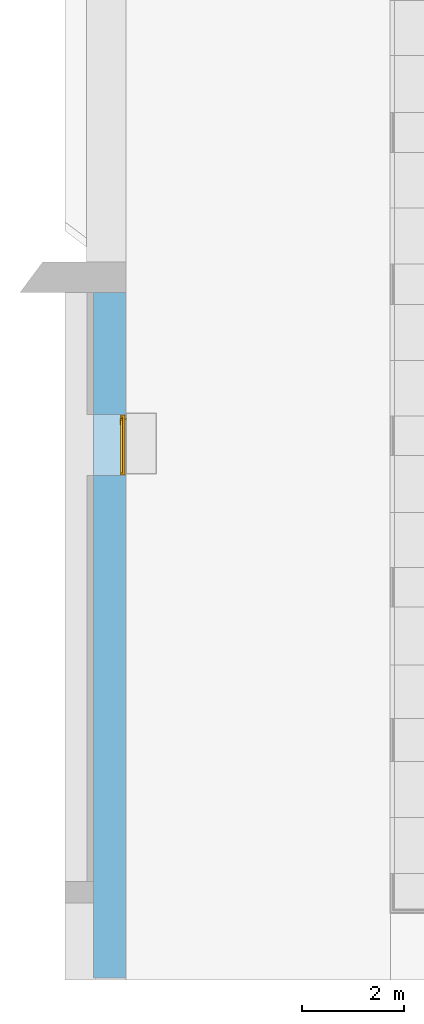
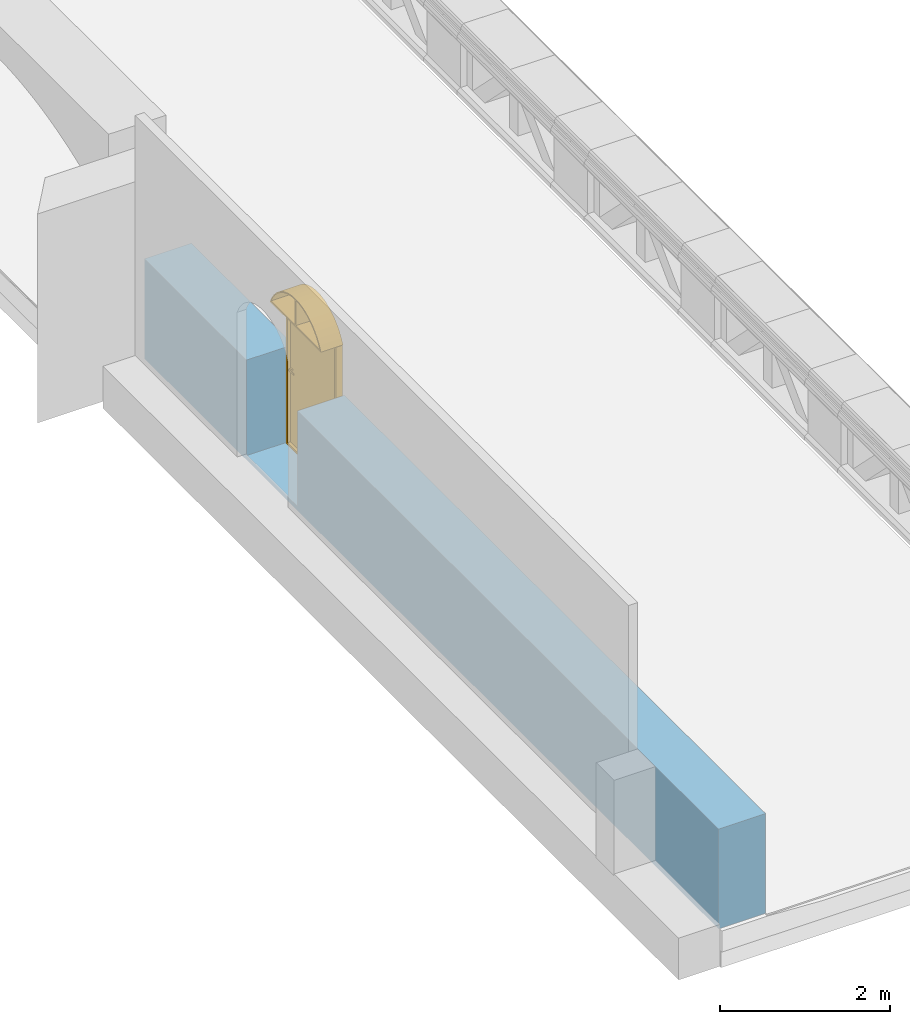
# One storey, part 4 of 9: 1 door, 7 openings, plus 1 element that does not belong to this part.
"""IFC2X3 building model written with IfcOpenShell, lengths in millimetres."""

from ifc_helpers import new_model, entity, si_unit, converted_unit, derived_unit, direction, frame, frame_2d, origin, place, context, subcontext, project, spatial, polyline, circle_curve, parameter, trimmed, segment, composite_curve, rectangle, outline, extrude, faceted_brep, source, transform, mapped, material, material_list, layer, layer_set, layer_usage, type_object, type_shapes, element, fill, save


model = new_model("IFC2X3")

# Units and contexts
model_context = context("Model", 3, precision=0.01, world=origin(), true_north=direction((6.123031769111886e-17, 1.0)))
body_context = subcontext(model_context, "Body", "Model", "MODEL_VIEW")
ifc_project = project(units=[si_unit("LENGTHUNIT", "METRE", prefix="MILLI"), si_unit("AREAUNIT", "SQUARE_METRE"), si_unit("VOLUMEUNIT", "CUBIC_METRE"), converted_unit("PLANEANGLEUNIT", "DEGREE", entity("IfcPlaneAngleMeasure", 0.017453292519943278), si_unit("PLANEANGLEUNIT", "RADIAN"), dimensions=[0, 0, 0, 0, 0, 0, 0]), si_unit("MASSUNIT", "GRAM", prefix="KILO"), derived_unit("MASSDENSITYUNIT", [(si_unit("MASSUNIT", "GRAM", prefix="KILO"), 1), (si_unit("LENGTHUNIT", "METRE"), -3)]), derived_unit("IONCONCENTRATIONUNIT", [(si_unit("MASSUNIT", "GRAM", prefix="KILO"), 1), (si_unit("LENGTHUNIT", "METRE"), -3)]), derived_unit("MOMENTOFINERTIAUNIT", [(si_unit("LENGTHUNIT", "METRE"), 4)]), si_unit("TIMEUNIT", "SECOND"), si_unit("FREQUENCYUNIT", "HERTZ"), si_unit("THERMODYNAMICTEMPERATUREUNIT", "DEGREE_CELSIUS"), derived_unit("THERMALTRANSMITTANCEUNIT", [(si_unit("MASSUNIT", "GRAM", prefix="KILO"), 1), (si_unit("THERMODYNAMICTEMPERATUREUNIT", "KELVIN"), -1), (si_unit("TIMEUNIT", "SECOND"), -3)]), derived_unit("THERMALCONDUCTANCEUNIT", [(si_unit("MASSUNIT", "GRAM", prefix="KILO"), 1), (si_unit("THERMODYNAMICTEMPERATUREUNIT", "KELVIN"), -1), (si_unit("TIMEUNIT", "SECOND"), -3), (si_unit("LENGTHUNIT", "METRE"), 1)]), derived_unit("VOLUMETRICFLOWRATEUNIT", [(si_unit("LENGTHUNIT", "METRE", prefix="DECI"), 3), (si_unit("TIMEUNIT", "SECOND"), -1)]), derived_unit("MASSFLOWRATEUNIT", [(si_unit("MASSUNIT", "GRAM", prefix="KILO"), 1), (si_unit("TIMEUNIT", "SECOND"), -1)]), derived_unit("ROTATIONALFREQUENCYUNIT", [(si_unit("TIMEUNIT", "SECOND"), -1)]), si_unit("ELECTRICCURRENTUNIT", "AMPERE"), si_unit("ELECTRICVOLTAGEUNIT", "VOLT"), si_unit("POWERUNIT", "WATT"), si_unit("FORCEUNIT", "NEWTON", prefix="KILO"), si_unit("ILLUMINANCEUNIT", "LUX"), si_unit("LUMINOUSFLUXUNIT", "LUMEN"), si_unit("LUMINOUSINTENSITYUNIT", "CANDELA"), si_unit("ENERGYUNIT", "JOULE"), derived_unit("USERDEFINED", [(si_unit("MASSUNIT", "GRAM", prefix="KILO"), -1), (si_unit("LENGTHUNIT", "METRE"), -2), (si_unit("TIMEUNIT", "SECOND"), 3), (si_unit("LUMINOUSFLUXUNIT", "LUMEN"), 1)]), derived_unit("USERDEFINED", [(si_unit("MASSUNIT", "GRAM", prefix="KILO"), 1), (si_unit("TIMEUNIT", "SECOND"), -3), (si_unit("LENGTHUNIT", "METRE"), 3), (si_unit("ELECTRICCURRENTUNIT", "AMPERE"), -2)]), derived_unit("SOUNDPOWERUNIT", [(si_unit("MASSUNIT", "GRAM", prefix="KILO"), 1), (si_unit("TIMEUNIT", "SECOND"), -3), (si_unit("LENGTHUNIT", "METRE"), 2)]), derived_unit("SOUNDPRESSUREUNIT", [(si_unit("MASSUNIT", "GRAM", prefix="KILO"), 1), (si_unit("LENGTHUNIT", "METRE"), -1), (si_unit("TIMEUNIT", "SECOND"), -2)]), derived_unit("LINEARVELOCITYUNIT", [(si_unit("LENGTHUNIT", "METRE"), 1), (si_unit("TIMEUNIT", "SECOND"), -1)]), si_unit("PRESSUREUNIT", "PASCAL"), derived_unit("USERDEFINED", [(si_unit("MASSUNIT", "GRAM", prefix="KILO"), 1), (si_unit("LENGTHUNIT", "METRE"), -2), (si_unit("TIMEUNIT", "SECOND"), -2)]), derived_unit("LINEARFORCEUNIT", [(si_unit("MASSUNIT", "GRAM", prefix="KILO"), 1), (si_unit("TIMEUNIT", "SECOND"), -2)]), derived_unit("PLANARFORCEUNIT", [(si_unit("MASSUNIT", "GRAM", prefix="KILO"), 1), (si_unit("LENGTHUNIT", "METRE"), -1), (si_unit("TIMEUNIT", "SECOND"), -2)]), derived_unit("SPECIFICHEATCAPACITYUNIT", [(si_unit("THERMODYNAMICTEMPERATUREUNIT", "KELVIN"), -1), (si_unit("LENGTHUNIT", "METRE"), 2), (si_unit("TIMEUNIT", "SECOND"), -2)]), derived_unit("HEATFLUXDENSITYUNIT", [(si_unit("MASSUNIT", "GRAM", prefix="KILO"), 1), (si_unit("TIMEUNIT", "SECOND"), -3)]), derived_unit("HEATINGVALUEUNIT", [(si_unit("LENGTHUNIT", "METRE"), 2), (si_unit("TIMEUNIT", "SECOND"), -2)]), derived_unit("VAPORPERMEABILITYUNIT", [(si_unit("LENGTHUNIT", "METRE"), -1), (si_unit("TIMEUNIT", "SECOND"), 1)]), derived_unit("DYNAMICVISCOSITYUNIT", [(si_unit("MASSUNIT", "GRAM", prefix="KILO"), 1), (si_unit("TIMEUNIT", "SECOND"), -1), (si_unit("LENGTHUNIT", "METRE"), -1)]), derived_unit("THERMALEXPANSIONCOEFFICIENTUNIT", [(si_unit("THERMODYNAMICTEMPERATUREUNIT", "KELVIN"), -1)]), derived_unit("MODULUSOFELASTICITYUNIT", [(si_unit("MASSUNIT", "GRAM", prefix="KILO"), 1), (si_unit("LENGTHUNIT", "METRE"), -1), (si_unit("TIMEUNIT", "SECOND"), -2)]), derived_unit("ISOTHERMALMOISTURECAPACITYUNIT", [(si_unit("MASSUNIT", "GRAM", prefix="KILO"), -1), (si_unit("LENGTHUNIT", "METRE"), 3)]), derived_unit("MOISTUREDIFFUSIVITYUNIT", [(si_unit("TIMEUNIT", "SECOND"), -1), (si_unit("LENGTHUNIT", "METRE"), 2)]), derived_unit("MASSPERLENGTHUNIT", [(si_unit("MASSUNIT", "GRAM", prefix="KILO"), 1), (si_unit("LENGTHUNIT", "METRE"), -1)]), derived_unit("THERMALRESISTANCEUNIT", [(si_unit("MASSUNIT", "GRAM", prefix="KILO"), -1), (si_unit("TIMEUNIT", "SECOND"), 3), (si_unit("THERMODYNAMICTEMPERATUREUNIT", "KELVIN"), 1)]), derived_unit("ACCELERATIONUNIT", [(si_unit("LENGTHUNIT", "METRE"), 1), (si_unit("TIMEUNIT", "SECOND"), -2)]), derived_unit("ANGULARVELOCITYUNIT", [(si_unit("TIMEUNIT", "SECOND"), -1), (si_unit("PLANEANGLEUNIT", "RADIAN"), 1)]), derived_unit("LINEARSTIFFNESSUNIT", [(si_unit("MASSUNIT", "GRAM", prefix="KILO"), 1), (si_unit("TIMEUNIT", "SECOND"), -2)]), derived_unit("WARPINGCONSTANTUNIT", [(si_unit("LENGTHUNIT", "METRE"), 6)]), derived_unit("LINEARMOMENTUNIT", [(si_unit("MASSUNIT", "GRAM", prefix="KILO"), 1), (si_unit("LENGTHUNIT", "METRE"), 1), (si_unit("TIMEUNIT", "SECOND"), -2)]), derived_unit("TORQUEUNIT", [(si_unit("MASSUNIT", "GRAM", prefix="KILO"), 1), (si_unit("LENGTHUNIT", "METRE"), 2), (si_unit("TIMEUNIT", "SECOND"), -2)])], contexts=[model_context])

# Site, building, storey
site_placement = place(None, origin())
site = spatial("IfcSite", under=ifc_project, at=site_placement, Name="Default", CompositionType="ELEMENT")
building_placement = place(site_placement, origin())
building = spatial("IfcBuilding", under=site, at=building_placement, Name="Eesti Rahvusraamatukogu hoone renoveerimise projekteerimistööd", CompositionType="ELEMENT")
storey_placement = place(building_placement, frame((0.0, 0.0, 3100.0)))
storey = spatial("IfcBuildingStorey", under=building, at=storey_placement, Name="E-korpus 2. korrus", CompositionType="ELEMENT", Elevation=3100.0)

# Wall, openings, door
ifc_material_1 = material(Name="ol. olev materjal")
ifc_layer = layer(ifc_material_1, 640.0)
ifc_layer_set = layer_set([ifc_layer], Name="Basic Wall:ol. olev - 640mm")
ifc_layer_usage = layer_usage(ifc_layer_set, "AXIS2", "NEGATIVE", 320.0)
wall_type = type_object("IfcWallType", Name="Basic Wall:ol. olev - 640mm", PredefinedType="STANDARD", material=ifc_layer_set)
wall_placement = place(storey_placement, frame((-48900.0, -1285.0, 420.0), z_axis=(0.0, 0.0, 1.0), x_axis=(0.0, 1.0, 0.0)))
wall = element("IfcWallStandardCase", 1, at=wall_placement, inside=storey, type_object=wall_type, material=ifc_layer_usage, Name="Basic Wall:ol. olev - 640mm", ObjectType="Basic Wall:ol. olev - 640mm", context=body_context, shape_type="SweptSolid", body=[
    extrude(rectangle(XDim=13499.999999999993, YDim=640.0000000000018, at=frame_2d((6749.999999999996, -5.286437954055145e-12), x_axis=(-1.0, 0.0))), origin(), (0.0, 0.0, 1.0), 1430.0000000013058),
])
opening_1_placement = place(wall_placement, frame((1285.0, -48900.0, 253.50210965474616)))
element("IfcOpeningElement", 2, at=opening_1_placement, cuts=wall, Name="Basic Wall:ol. olev - 640mm", ObjectType="Recess", context=body_context, shape_type="SweptSolid", body=[
    extrude(rectangle(XDim=372.5970028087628, YDim=325.20206496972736, at=frame_2d((-2.7000623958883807e-13, -1.0800249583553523e-12), x_axis=(1.0, 0.0))), frame((12157.601032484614, 48580.0, 186.29850140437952), z_axis=(0.0, 1.0, 0.0), x_axis=(0.0, 0.0, -1.0)), (0.0, 0.0, 1.0), 269.99999999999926),
])
opening_2_placement = place(wall_placement, frame((1285.0, -48900.0, 60.0)))
element("IfcOpeningElement", 3, at=opening_2_placement, cuts=wall, Name="Basic Wall:ol. olev - 640mm", ObjectType="Opening", context=body_context, shape_type="SweptSolid", body=[
    extrude(outline(composite_curve([segment(polyline([(-1340.0, -600.0), (760.0, -600.0)]), True, "CONTINUOUS"), segment(trimmed(circle_curve(frame_2d((510.0, 0.0), x_axis=(0.0, -1.0)), 650.0000000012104), [parameter(22.619864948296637)], [parameter(89.99999999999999)], True, "PARAMETER"), True, "CONTINUOUS"), segment(trimmed(circle_curve(frame_2d((510.0, 0.0), x_axis=(0.0, -1.0)), 650.0000000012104), [parameter(89.99999999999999)], [parameter(157.38013505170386)], True, "PARAMETER"), True, "CONTINUOUS"), segment(polyline([(760.0, 600.0), (-1340.0, 600.0)]), True, "CONTINUOUS"), segment(polyline([(-1340.0, 600.0), (-1340.0, -600.0)]), True, "CONTINUOUS")], self_intersect=False)), frame((-9204.0, 47696.0, 1340.0), z_axis=(0.0, 1.0, 0.0), x_axis=(0.0, 0.0, 1.0)), (0.0, 0.0, 1.0), 3048.0),
])
opening_3_placement = place(wall_placement, frame((1285.0, -48900.0, 60.0)))
element("IfcOpeningElement", 4, at=opening_3_placement, cuts=wall, Name="Basic Wall:ol. olev - 640mm", ObjectType="Opening", context=body_context, shape_type="SweptSolid", body=[
    extrude(outline(composite_curve([segment(polyline([(-1340.0, -600.0), (760.0, -600.0)]), True, "CONTINUOUS"), segment(trimmed(circle_curve(frame_2d((510.0, 0.0), x_axis=(0.0, -1.0)), 650.0000000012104), [parameter(22.619864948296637)], [parameter(89.99999999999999)], True, "PARAMETER"), True, "CONTINUOUS"), segment(trimmed(circle_curve(frame_2d((510.0, 0.0), x_axis=(0.0, -1.0)), 650.0000000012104), [parameter(89.99999999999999)], [parameter(157.38013505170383)], True, "PARAMETER"), True, "CONTINUOUS"), segment(polyline([(760.0, 600.0), (-1340.0, 600.0)]), True, "CONTINUOUS"), segment(polyline([(-1340.0, 600.0), (-1340.0, -600.0)]), True, "CONTINUOUS")], self_intersect=False)), frame((-2644.0, 47696.0, 1340.0), z_axis=(0.0, 1.0, 0.0), x_axis=(0.0, 0.0, 1.0)), (0.0, 0.0, 1.0), 3048.0),
])
opening_4_placement = place(wall_placement, frame((1285.0, -48900.0, -420.0)))
element("IfcOpeningElement", 5, at=opening_4_placement, cuts=wall, Name="Basic Wall:ol. olev - 640mm", ObjectType="Opening", context=body_context, shape_type="SweptSolid", body=[
    extrude(rectangle(XDim=2400.0, YDim=150.00000000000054, at=frame_2d((0.0, 0.0), x_axis=(0.0, 1.0))), frame((-15001.215903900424, 49217.50000000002, 1200.0), z_axis=(0.0, 1.0, 0.0), x_axis=(1.0, 0.0, 0.0)), (0.0, 0.0, 1.0), 1319.9999999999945),
])
opening_5_placement = place(wall_placement, frame((1285.0, -48900.0, 85.0)))
element("IfcOpeningElement", 6, at=opening_5_placement, cuts=wall, Name="Basic Wall:ol. olev - 640mm", ObjectType="Opening", context=body_context, shape_type="SweptSolid", body=[
    extrude(rectangle(XDim=2099.9999999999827, YDim=150.00000000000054, at=frame_2d((0.0, -5.684341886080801e-13), x_axis=(0.0, 1.0))), frame((9890.0, 49345.0, 1050.0), z_axis=(0.0, 1.0, 0.0), x_axis=(1.0, 0.0, 0.0)), (0.0, 0.0, 1.0), 800.0),
])
opening_6_placement = place(wall_placement, frame((11100.0, 320.0, 60.0)))
opening_6 = element("IfcOpeningElement", 7, at=opening_6_placement, cuts=wall, Name="SMA_D01, 1-poolne, kaar klaasiga:VU-63_1200x2100 (kaar 400mm):1", ObjectType="Opening", context=body_context, shape_type="SweptSolid", body=[
    extrude(outline(composite_curve([segment(polyline([(0.0, 1200.0), (0.0, 0.0)]), True, "CONTINUOUS"), segment(polyline([(0.0, 0.0), (2100.0, 0.0)]), True, "CONTINUOUS"), segment(trimmed(circle_curve(frame_2d((1850.0, 600.0), x_axis=(0.0, 1.0)), 650.0000000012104), [parameter(202.61986494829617)], [parameter(270.0)], True, "PARAMETER"), True, "CONTINUOUS"), segment(trimmed(circle_curve(frame_2d((1850.0, 600.0), x_axis=(0.0, 1.0)), 650.0000000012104), [parameter(270.0)], [parameter(337.3801350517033)], True, "PARAMETER"), True, "CONTINUOUS"), segment(polyline([(2100.0, 1200.0), (0.0, 1200.0)]), True, "CONTINUOUS")], self_intersect=False)), frame((0.0, 0.0, 0.0), z_axis=(0.0, -1.0, 0.0), x_axis=(0.0, 0.0, 1.0)), (0.0, 0.0, 1.0), 640.0),
])
opening_7_placement = place(wall_placement, frame((1285.0, -48900.0, 60.0), z_axis=(0.0, 0.0, 1.0), x_axis=(0.0, -1.0, 0.0)))
element("IfcOpeningElement", 8, at=opening_7_placement, cuts=wall, Name="Basic Wall:ol. olev - 640mm", ObjectType="Opening", context=body_context, shape_type="SweptSolid", body=[
    extrude(outline(composite_curve([segment(polyline([(-1338.0, -425.0), (762.0, -425.0)]), True, "CONTINUOUS"), segment(trimmed(circle_curve(frame_2d((725.4294871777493, 0.0), x_axis=(0.0, -1.0)), 426.57051282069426), [parameter(4.918087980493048)], [parameter(89.99999999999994)], True, "PARAMETER"), True, "CONTINUOUS"), segment(trimmed(circle_curve(frame_2d((725.4294871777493, 0.0), x_axis=(0.0, -1.0)), 426.5705128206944), [parameter(89.99999999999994)], [parameter(175.0819120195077)], True, "PARAMETER"), True, "CONTINUOUS"), segment(polyline([(762.0, 425.0), (-1338.0, 425.0)]), True, "CONTINUOUS"), segment(polyline([(-1338.0, 425.0), (-1338.0, -425.0)]), True, "CONTINUOUS")], self_intersect=False)), frame((-47696.0, 9385.0, 1338.0), z_axis=(-1.0, 0.0, 0.0), x_axis=(0.0, 0.0, 1.0)), (0.0, 0.0, 1.0), 3048.0),
])
ifc_material_2 = material(Name="EST. Metall. Alumiinium. Värvitud.")
ifc_material_3 = material(Name="EST. Klaas. 3x. Default")
ifc_material_list = material_list([ifc_material_2, ifc_material_3])
door_style = type_object("IfcDoorStyle", Name="SMA_D01, 1-poolne, kaar klaasiga:VU-63_1200x2100 (kaar 400mm)", ConstructionType="NOTDEFINED", OperationType="NOTDEFINED", ParameterTakesPrecedence=False, Sizeable=False, material=ifc_material_list)
shared_shape = source(origin(), body_context, "Body", "Brep", [
    faceted_brep([(110.0, 530.0, 1112.5), (110.0, 568.0, 1112.5), (85.0, 568.0, 1112.5), (85.0, 525.0, 1112.5), (205.0, 525.0, 1112.5), (205.0, 530.0, 1112.5), (110.0, 530.0, 1087.5), (205.0, 530.0, 1087.5), (205.0, 525.0, 1087.5), (85.0, 525.0, 1087.5), (85.0, 568.0, 1087.5), (110.0, 568.0, 1087.5)], [[[0, 1, 2, 3, 4, 5]], [[6, 7, 8, 9, 10, 11]], [[1, 0, 6, 11]], [[2, 1, 11, 10]], [[3, 2, 10, 9]], [[4, 3, 9, 8]], [[5, 4, 8, 7]], [[0, 5, 7, 6]]]),
    faceted_brep([(122.49999999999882, 568.0, 1137.5), (122.49999999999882, 570.0, 1137.5), (72.49999999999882, 570.0, 1137.5), (72.49999999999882, 568.0, 1137.5), (122.49999999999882, 568.0, 1017.5), (72.49999999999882, 568.0, 1017.5), (72.49999999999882, 570.0, 1017.5), (122.49999999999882, 570.0, 1017.5)], [[[0, 1, 2, 3]], [[4, 5, 6, 7]], [[1, 0, 4, 7]], [[2, 1, 7, 6]], [[3, 2, 6, 5]], [[0, 3, 5, 4]]]),
    faceted_brep([(110.0, 660.0, 1112.5), (205.0, 660.0, 1112.5), (205.0, 665.0, 1112.5), (85.0, 665.0, 1112.5), (85.0, 622.0, 1112.5), (110.0, 622.0, 1112.5), (110.0, 660.0, 1087.5), (110.0, 622.0, 1087.5), (85.0, 622.0, 1087.5), (85.0, 665.0, 1087.5), (205.0, 665.0, 1087.5), (205.0, 660.0, 1087.5)], [[[0, 1, 2, 3, 4, 5]], [[6, 7, 8, 9, 10, 11]], [[5, 7, 6, 0]], [[4, 8, 7, 5]], [[3, 9, 8, 4]], [[2, 10, 9, 3]], [[1, 11, 10, 2]], [[0, 6, 11, 1]]]),
    faceted_brep([(122.49999999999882, 622.0, 1137.5), (72.49999999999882, 622.0, 1137.5), (72.49999999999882, 620.0, 1137.5), (122.49999999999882, 620.0, 1137.5), (122.49999999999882, 622.0, 1017.5), (122.49999999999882, 620.0, 1017.5), (72.49999999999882, 620.0, 1017.5), (72.49999999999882, 622.0, 1017.5)], [[[0, 1, 2, 3]], [[4, 5, 6, 7]], [[3, 5, 4, 0]], [[2, 6, 5, 3]], [[1, 7, 6, 2]], [[0, 4, 7, 1]]]),
    faceted_brep([(1150.0, 530.0, 30.0), (1150.0, 530.0, 0.0), (1150.0, 570.0, 0.0), (1150.0, 570.0, 20.0), (1150.0, 570.0, 30.0), (50.0, 530.0, 30.0), (50.0, 570.0, 30.0), (50.0, 570.0, 20.0), (50.0, 570.0, 0.0), (50.0, 530.0, 0.0), (35.0, 570.0, 0.0), (35.0, 620.0, 0.0), (1165.0, 620.0, 0.0), (1165.0, 570.0, 0.0), (1165.0, 620.0, 20.0), (1165.0, 570.0, 20.0), (35.0, 620.0, 20.0), (35.0, 570.0, 20.0)], [[[0, 1, 2, 3, 4]], [[5, 6, 7, 8, 9]], [[1, 0, 5, 9]], [[2, 1, 9, 8, 10, 11, 12, 13]], [[6, 4, 3, 7]], [[0, 4, 6, 5]], [[14, 15, 13, 12]], [[16, 11, 10, 17]], [[15, 14, 16, 17, 7, 3]], [[13, 15, 3, 2]], [[14, 12, 11, 16]], [[17, 10, 8, 7]]]),
    faceted_brep([(1190.0, 530.0, 0.0), (1150.0, 530.0, 0.0), (1150.0, 570.0, 0.0), (1165.0, 570.0, 0.0), (1165.0, 620.0, 0.0), (1190.0, 620.0, 0.0), (1190.0, 530.0, 2090.0), (10.0, 530.0, 2090.0), (10.0, 530.0, 0.0), (50.0, 530.0, 0.0), (50.0, 530.0, 2050.0), (1150.0, 530.0, 2050.0), (1150.0, 570.0, 2050.0), (50.0, 570.0, 2050.0), (50.0, 570.0, 0.0), (35.0, 570.0, 0.0), (35.0, 570.0, 2065.0), (1165.0, 570.0, 2065.0), (1165.0, 620.0, 2065.0), (35.0, 620.0, 2065.0), (35.0, 620.0, 0.0), (10.0, 620.0, 0.0), (10.0, 620.0, 2090.0), (1190.0, 620.0, 2090.0)], [[[0, 1, 2, 3, 4, 5]], [[1, 0, 6, 7, 8, 9, 10, 11]], [[2, 1, 11, 12]], [[3, 2, 12, 13, 14, 15, 16, 17]], [[4, 3, 17, 18]], [[5, 4, 18, 19, 20, 21, 22, 23]], [[0, 5, 23, 6]], [[8, 7, 22, 21]], [[9, 8, 21, 20, 15, 14]], [[10, 9, 14, 13]], [[16, 15, 20, 19]], [[11, 10, 13, 12]], [[17, 16, 19, 18]], [[7, 6, 23, 22]]]),
    faceted_brep([(35.0, 570.0, 2065.0), (35.0, 570.0, 20.0), (1165.0, 570.0, 20.0), (1165.0, 570.0, 2065.0), (35.0, 620.0, 2065.0), (1165.0, 620.0, 2065.0), (1165.0, 620.0, 20.0), (35.0, 620.0, 20.0)], [[[0, 1, 2, 3]], [[4, 5, 6, 7]], [[1, 0, 4, 7]], [[2, 1, 7, 6]], [[3, 2, 6, 5]], [[0, 3, 5, 4]]]),
    faceted_brep([(1174.3416490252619, 585.0, 2125.0), (1131.0248290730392, 585.0, 2201.4341484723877), (1077.6000033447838, 585.0, 2271.1787822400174), (1015.0841081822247, 585.0, 2332.9063190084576), (944.6671275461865, 585.0, 2385.441781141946), (867.689441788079, 585.0, 2427.785161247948), (785.6163136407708, 585.0, 2459.1304572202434), (700.0099970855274, 585.0, 2478.8810144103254), (612.4999999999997, 585.0, 2486.6608828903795), (612.4999999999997, 585.0, 2125.0), (1174.3416490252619, 605.0, 2125.0), (1131.0248290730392, 605.0, 2201.4341484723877), (1077.6000033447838, 605.0, 2271.1787822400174), (1015.0841081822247, 605.0, 2332.9063190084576), (944.6671275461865, 605.0, 2385.441781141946), (867.689441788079, 605.0, 2427.785161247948), (785.6163136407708, 605.0, 2459.1304572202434), (700.0099970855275, 605.0, 2478.8810144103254), (612.4999999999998, 605.0, 2486.6608828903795), (612.4999999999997, 605.0, 2125.0)], [[[0, 1, 2, 3, 4, 5, 6, 7, 8, 9]], [[10, 11, 1, 0]], [[12, 13, 3, 2]], [[11, 12, 2, 1]], [[13, 14, 4, 3]], [[15, 16, 6, 5]], [[17, 18, 8, 7]], [[16, 17, 7, 6]], [[14, 15, 5, 4]], [[9, 8, 18, 19]], [[16, 15, 14, 13, 12, 11, 10, 19, 18, 17]], [[0, 9, 19, 10]]]),
    faceted_brep([(587.4999999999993, 585.0, 2125.0), (587.5000000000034, 585.0, 2486.660882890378), (499.9900029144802, 585.0, 2478.8810144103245), (414.38368635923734, 585.0, 2459.1304572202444), (332.31055821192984, 585.0, 2427.7851612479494), (255.33287245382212, 585.0, 2385.441781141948), (184.91589181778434, 585.0, 2332.9063190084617), (122.39999665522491, 585.0, 2271.178782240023), (68.9751709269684, 585.0, 2201.434148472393), (25.65835097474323, 585.0, 2125.0), (499.9900029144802, 605.0, 2478.8810144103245), (587.4999999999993, 605.0, 2486.660882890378), (587.4999999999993, 605.0, 2125.0), (25.658350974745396, 605.0, 2125.0), (68.9751709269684, 605.0, 2201.434148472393), (122.39999665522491, 605.0, 2271.178782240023), (184.91589181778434, 605.0, 2332.9063190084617), (255.33287245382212, 605.0, 2385.441781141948), (332.31055821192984, 605.0, 2427.7851612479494), (414.38368635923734, 605.0, 2459.1304572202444)], [[[0, 1, 2, 3, 4, 5, 6, 7, 8, 9]], [[10, 11, 12, 13, 14, 15, 16, 17, 18, 19]], [[2, 10, 19, 3]], [[3, 19, 18, 4]], [[4, 18, 17, 5]], [[11, 10, 2, 1]], [[6, 16, 15, 7]], [[7, 15, 14, 8]], [[8, 14, 13, 9]], [[5, 17, 16, 6]], [[1, 0, 12, 11]], [[0, 9, 13, 12]]]),
    faceted_brep([(1200.0, 320.0, 2100.0), (1174.3416490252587, 320.0, 2125.0), (612.4999999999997, 320.0, 2125.0), (1162.3111729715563, 320.0, 2176.0462310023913), (587.4999999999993, 320.0, 2125.0), (0.0, 320.0, 2100.0), (1131.0248290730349, 320.0, 2201.434148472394), (1115.0351375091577, 320.0, 2246.5334880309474), (1077.6000033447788, 320.0, 2271.178782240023), (1058.9779334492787, 320.0, 2310.2599880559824), (1015.0841081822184, 320.0, 2332.906319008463), (995.0953164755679, 320.0, 2366.139216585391), (944.6671275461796, 320.0, 2385.4417811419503), (924.4764628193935, 320.0, 2413.218452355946), (867.6894417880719, 320.0, 2427.7851612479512), (848.3253991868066, 320.0, 2450.6950108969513), (785.616313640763, 320.0, 2459.130457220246), (767.9404745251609, 320.0, 2477.929930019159), (700.0099970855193, 320.0, 2478.8810144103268), (684.6922236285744, 320.0, 2494.4588638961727), (612.4999999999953, 320.0, 2486.6608828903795), (600.0, 320.0, 2499.999999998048), (587.4999999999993, 320.0, 2486.6608828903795), (515.3077763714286, 320.0, 2494.4588638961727), (499.99000291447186, 320.0, 2478.881014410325), (432.0595254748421, 320.0, 2477.9299300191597), (414.38368635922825, 320.0, 2459.130457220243), (351.67460081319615, 320.0, 2450.6950108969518), (332.31055821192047, 320.0, 2427.785161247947), (275.52353718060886, 320.0, 2413.2184523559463), (255.3328724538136, 320.0, 2385.441781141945), (204.90468352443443, 320.0, 2366.1392165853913), (184.91589181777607, 320.0, 2332.906319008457), (141.0220665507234, 320.0, 2310.259988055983), (122.3999966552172, 320.0, 2271.178782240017), (84.9648624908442, 320.0, 2246.533488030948), (68.97517092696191, 320.0, 2201.434148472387), (37.68882702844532, 320.0, 2176.046231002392), (25.65835097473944, 320.0, 2125.0), (25.658350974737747, 620.0, 2125.0), (68.97517092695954, 620.0, 2201.434148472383), (122.39999665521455, 620.0, 2271.178782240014), (184.91589181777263, 620.0, 2332.906319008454), (255.33287245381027, 620.0, 2385.441781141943), (332.31055821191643, 620.0, 2427.7851612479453), (414.38368635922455, 620.0, 2459.130457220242), (499.9900029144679, 620.0, 2478.8810144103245), (587.4999999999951, 620.0, 2486.6608828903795), (587.4999999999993, 620.0, 2125.0), (1200.0, 620.0, 2100.0), (1162.3111729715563, 620.0, 2176.0462310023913), (1115.0351375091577, 620.0, 2246.5334880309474), (1058.9779334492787, 620.0, 2310.2599880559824), (995.0953164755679, 620.0, 2366.139216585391), (924.4764628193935, 620.0, 2413.218452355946), (848.3253991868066, 620.0, 2450.6950108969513), (767.9404745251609, 620.0, 2477.929930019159), (684.6922236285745, 620.0, 2494.4588638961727), (600.0, 620.0, 2499.999999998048), (515.3077763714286, 620.0, 2494.4588638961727), (432.0595254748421, 620.0, 2477.9299300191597), (351.67460081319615, 620.0, 2450.6950108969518), (275.52353718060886, 620.0, 2413.2184523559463), (204.90468352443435, 620.0, 2366.1392165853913), (141.0220665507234, 620.0, 2310.259988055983), (84.9648624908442, 620.0, 2246.533488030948), (37.68882702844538, 620.0, 2176.046231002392), (0.0, 620.0, 2100.0), (612.4999999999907, 620.0, 2486.6608828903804), (700.0099970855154, 620.0, 2478.881014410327), (785.6163136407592, 620.0, 2459.1304572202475), (867.6894417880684, 620.0, 2427.785161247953), (944.6671275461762, 620.0, 2385.4417811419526), (1015.0841081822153, 620.0, 2332.9063190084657), (1077.6000033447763, 620.0, 2271.178782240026), (1131.0248290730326, 620.0, 2201.4341484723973), (1174.3416490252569, 620.0, 2125.0), (612.4999999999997, 620.0, 2125.0)], [[[0, 1, 2]], [[1, 0, 3]], [[4, 0, 2]], [[4, 5, 0]], [[3, 6, 1]], [[6, 3, 7]], [[7, 8, 6]], [[8, 7, 9]], [[9, 10, 8]], [[9, 11, 10]], [[11, 12, 10]], [[13, 12, 11]], [[12, 13, 14]], [[15, 14, 13]], [[14, 15, 16]], [[16, 15, 17]], [[17, 18, 16]], [[18, 17, 19]], [[19, 20, 18]], [[20, 19, 21]], [[20, 21, 22]], [[23, 22, 21]], [[22, 23, 24]], [[25, 24, 23]], [[26, 24, 25]], [[26, 25, 27]], [[27, 28, 26]], [[28, 27, 29]], [[29, 30, 28]], [[31, 30, 29]], [[32, 30, 31]], [[33, 32, 31]], [[32, 33, 34]], [[35, 34, 33]], [[36, 34, 35]], [[36, 35, 37]], [[5, 38, 37]], [[36, 37, 38]], [[38, 5, 4]], [[4, 2, 22]], [[22, 2, 20]], [[36, 38, 39, 40]], [[34, 36, 40, 41]], [[32, 34, 41, 42]], [[32, 42, 43, 30]], [[26, 28, 44, 45]], [[24, 26, 45, 46]], [[22, 24, 46, 47]], [[43, 44, 28, 30]], [[4, 22, 47, 48]], [[49, 50, 3, 0]], [[9, 7, 51, 52]], [[11, 9, 52, 53]], [[50, 51, 7, 3]], [[53, 54, 13, 11]], [[15, 13, 54, 55]], [[19, 17, 56, 57]], [[55, 56, 17, 15]], [[21, 19, 57, 58]], [[23, 21, 58, 59]], [[27, 25, 60, 61]], [[59, 60, 25, 23]], [[29, 27, 61, 62]], [[62, 63, 31, 29]], [[33, 31, 63, 64]], [[37, 35, 65, 66]], [[64, 65, 35, 33]], [[5, 37, 66, 67]], [[18, 20, 68, 69]], [[16, 18, 69, 70]], [[14, 16, 70, 71]], [[14, 71, 72, 12]], [[8, 10, 73, 74]], [[6, 8, 74, 75]], [[1, 6, 75, 76]], [[72, 73, 10, 12]], [[20, 2, 77, 68]], [[69, 56, 70]], [[56, 69, 57]], [[68, 57, 69]], [[57, 68, 58]], [[47, 58, 68]], [[77, 47, 68]], [[48, 47, 77]], [[49, 48, 77]], [[76, 49, 77]], [[49, 76, 50]], [[50, 76, 75]], [[50, 75, 51]], [[74, 51, 75]], [[51, 74, 52]], [[73, 52, 74]], [[53, 52, 73]], [[72, 53, 73]], [[72, 54, 53]], [[54, 72, 71]], [[70, 55, 71]], [[71, 55, 54]], [[48, 49, 67]], [[67, 39, 48]], [[66, 39, 67]], [[39, 66, 40]], [[40, 66, 65]], [[65, 41, 40]], [[64, 41, 65]], [[41, 64, 42]], [[63, 42, 64]], [[63, 43, 42]], [[62, 43, 63]], [[44, 43, 62]], [[44, 62, 61]], [[61, 45, 44]], [[45, 61, 60]], [[60, 46, 45]], [[59, 46, 60]], [[58, 47, 59]], [[46, 59, 47]], [[55, 70, 56]], [[0, 5, 67, 49]], [[2, 1, 76, 77]], [[38, 4, 48, 39]]]),
])
type_shapes(door_style, [shared_shape])
door_placement = place(opening_6_placement, frame((0.0, 0.0, 0.0), z_axis=(0.0, 0.0, 1.0), x_axis=(-1.0, 0.0, 0.0)))
door = element("IfcDoor", 9, at=door_placement, inside=storey, type_object=door_style, material=ifc_material_list, Name="SMA_D01, 1-poolne, kaar klaasiga:VU-63_1200x2100 (kaar 400mm)", ObjectType="SMA_D01, 1-poolne, kaar klaasiga:VU-63_1200x2100 (kaar 400mm)", OverallHeight=2499.999999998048, OverallWidth=1200.0000000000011, context=body_context, shape_type="MappedRepresentation", body=[
    mapped(shared_shape, transform((0.0, 0.0, 0.0), scale=1.0)),
])
fill(opening_6, door)

save(model, "model.ifc")
